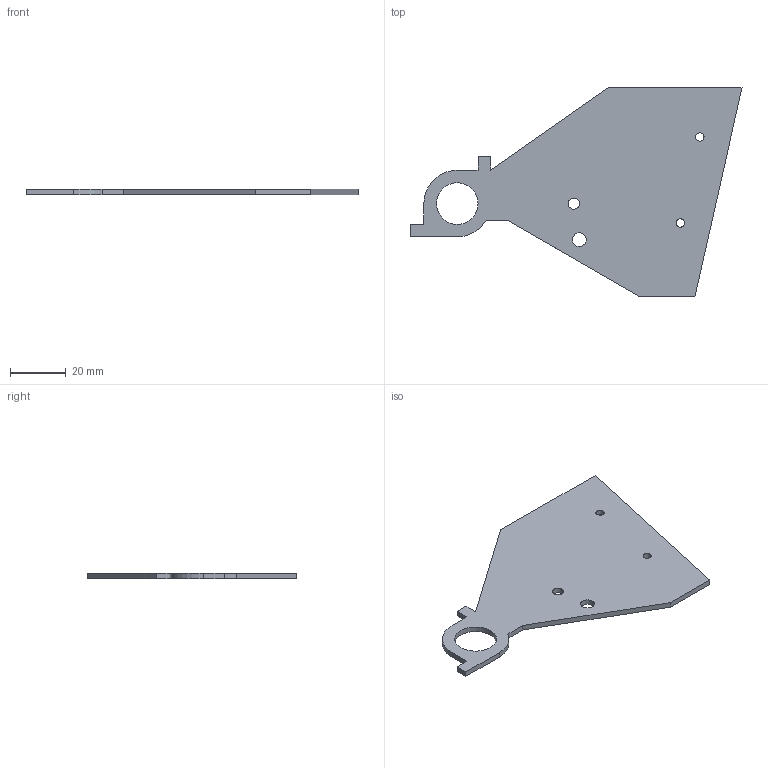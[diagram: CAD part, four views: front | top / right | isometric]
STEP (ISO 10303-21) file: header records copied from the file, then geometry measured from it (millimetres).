
FILE_DESCRIPTION (( 'STEP AP214' ), '1' );
FILE_NAME ('陔絮殤2.STEP', '2024-11-14T11:31:40', ( '' ), ( '' ), 'SwSTEP 2.0', 'SolidWorks 2021', '' );
FILE_SCHEMA (( 'AUTOMOTIVE_DESIGN' ));
Length unit declared in the file: millimetre
Products named in the file (1): 陔絮殤2
Bounding box: 119.58 x 75.34 x 2 mm (x, y, z)
Volume: 10136.1 mm3; surface area: 11018.8 mm2
Topology: 1 solids, 1 shells, 28 faces, 78 edges, 52 vertices
Faces by surface type: plane 16, cylinder 12
Entity records: 960 total; most frequent: DIRECTION 160, CARTESIAN_POINT 159, ORIENTED_EDGE 156, EDGE_CURVE 78, VECTOR 54, LINE 54, AXIS2_PLACEMENT_3D 53, VERTEX_POINT 52
